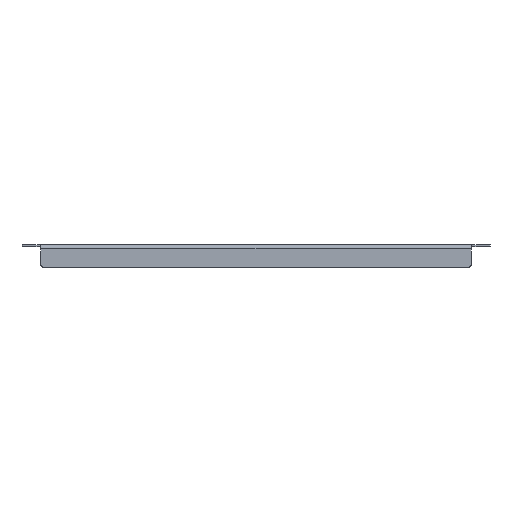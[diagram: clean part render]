
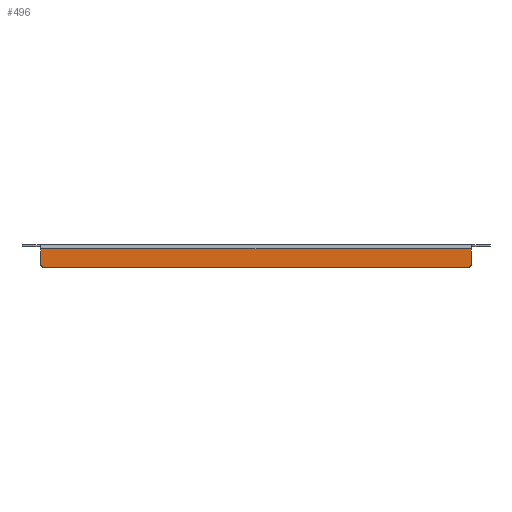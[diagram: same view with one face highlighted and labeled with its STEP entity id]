
A CAD part, left-side view. The second image highlights one B-rep face of the part: STEP entity #496.
In plain terms, the highlighted planar face has unit normal (-1, 0, 0).
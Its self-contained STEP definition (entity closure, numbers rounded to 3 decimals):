
#496=ADVANCED_FACE('',(#4016),#4018,.T.);
#4016=FACE_BOUND('',#4017,.T.);
#4017=EDGE_LOOP('',(#6727,#6728,#6729,#6730,#6731,#6732));
#4018=PLANE('',#4019);
#4019=AXIS2_PLACEMENT_3D('',#4020,#4021,#4022);
#4020=CARTESIAN_POINT('',(-100.,0.,98.773));
#4021=DIRECTION('',(-1.,0.,0.));
#4022=DIRECTION('',(0.,1.,0.));
#6727=ORIENTED_EDGE('',*,*,#8100,.F.);
#6728=ORIENTED_EDGE('',*,*,#8101,.T.);
#6729=ORIENTED_EDGE('',*,*,#8102,.F.);
#6730=ORIENTED_EDGE('',*,*,#8103,.T.);
#6731=ORIENTED_EDGE('',*,*,#8078,.T.);
#6732=ORIENTED_EDGE('',*,*,#8104,.T.);
#8078=EDGE_CURVE('',#10288,#10289,#10290,.T.);
#8100=EDGE_CURVE('',#10324,#10325,#10326,.F.);
#8101=EDGE_CURVE('',#10324,#10327,#10328,.T.);
#8102=EDGE_CURVE('',#10329,#10327,#10330,.F.);
#8103=EDGE_CURVE('',#10329,#10288,#10331,.T.);
#8104=EDGE_CURVE('',#10289,#10325,#10332,.T.);
#10288=VERTEX_POINT('',#15564);
#10289=VERTEX_POINT('',#15565);
#10290=LINE('',#15566,#15567);
#10324=VERTEX_POINT('',#15652);
#10325=VERTEX_POINT('',#15653);
#10326=CIRCLE('',#15654,2.);
#10327=VERTEX_POINT('',#15658);
#10328=LINE('',#15659,#15660);
#10329=VERTEX_POINT('',#15662);
#10330=CIRCLE('',#15663,2.);
#10331=LINE('',#15667,#15668);
#10332=LINE('',#15670,#15671);
#15564=CARTESIAN_POINT('',(-100.,-181.5,-2.));
#15565=CARTESIAN_POINT('',(-100.,181.5,-2.));
#15566=CARTESIAN_POINT('',(-100.,-181.5,-2.));
#15567=VECTOR('',#15568,1.);
#15568=DIRECTION('',(0.,1.,0.));
#15652=CARTESIAN_POINT('',(-100.,179.5,-17.5));
#15653=CARTESIAN_POINT('',(-100.,181.5,-15.5));
#15654=AXIS2_PLACEMENT_3D('',#15655,#15656,#15657);
#15655=CARTESIAN_POINT('',(-100.,179.5,-15.5));
#15656=DIRECTION('',(-1.,0.,0.));
#15657=DIRECTION('',(0.,1.,0.));
#15658=CARTESIAN_POINT('',(-100.,-179.5,-17.5));
#15659=CARTESIAN_POINT('',(-100.,179.5,-17.5));
#15660=VECTOR('',#15661,1.);
#15661=DIRECTION('',(0.,-1.,0.));
#15662=CARTESIAN_POINT('',(-100.,-181.5,-15.5));
#15663=AXIS2_PLACEMENT_3D('',#15664,#15665,#15666);
#15664=CARTESIAN_POINT('',(-100.,-179.5,-15.5));
#15665=DIRECTION('',(-1.,0.,0.));
#15666=DIRECTION('',(0.,0.,-1.));
#15667=CARTESIAN_POINT('',(-100.,-181.5,-15.5));
#15668=VECTOR('',#15669,1.);
#15669=DIRECTION('',(0.,0.,1.));
#15670=CARTESIAN_POINT('',(-100.,181.5,-2.));
#15671=VECTOR('',#15672,1.);
#15672=DIRECTION('',(0.,0.,-1.));
